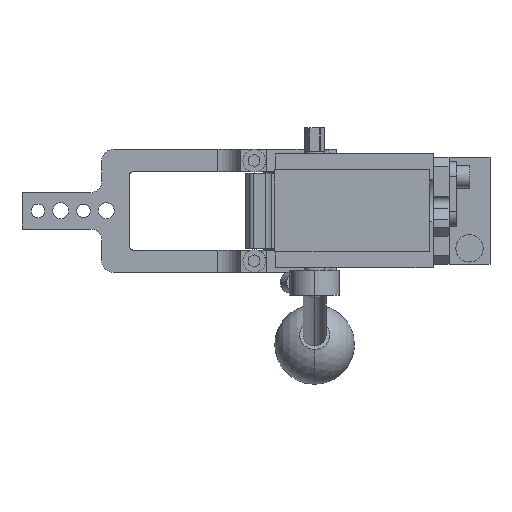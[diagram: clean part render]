
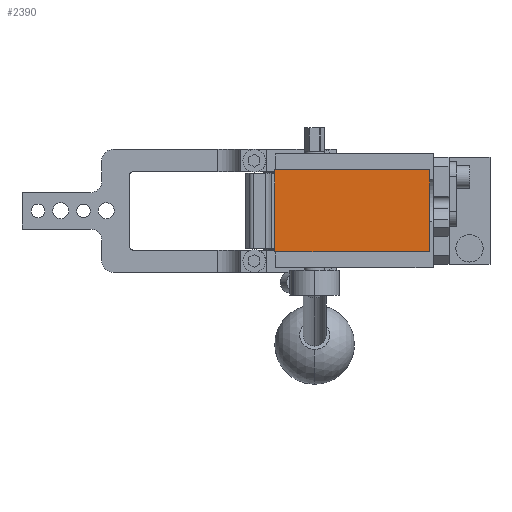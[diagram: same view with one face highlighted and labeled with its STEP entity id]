
A CAD part, front view. The second image highlights one B-rep face of the part: STEP entity #2390.
In plain terms, the highlighted planar face has unit normal (0, -1, 0).
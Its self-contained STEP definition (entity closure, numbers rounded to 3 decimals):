
#69 = DIRECTION ( 'NONE',  ( 0., 0., 1. ) ) ;
#428 = ORIENTED_EDGE ( 'NONE', *, *, #16366, .T. ) ;
#737 = VERTEX_POINT ( 'NONE', #11308 ) ;
#813 = VERTEX_POINT ( 'NONE', #14368 ) ;
#1260 = LINE ( 'NONE', #2594, #8915 ) ;
#1832 = CARTESIAN_POINT ( 'NONE',  ( 0., -233., 0. ) ) ;
#1870 = EDGE_CURVE ( 'NONE', #16484, #10119, #15549, .T. ) ;
#1914 = EDGE_CURVE ( 'NONE', #813, #16484, #8390, .T. ) ;
#2390 = ADVANCED_FACE ( 'NONE', ( #5503 ), #8371, .T. ) ;
#2594 = CARTESIAN_POINT ( 'NONE',  ( -6., -233., 18. ) ) ;
#3450 = ORIENTED_EDGE ( 'NONE', *, *, #1914, .T. ) ;
#5356 = CARTESIAN_POINT ( 'NONE',  ( 62., -233., -18. ) ) ;
#5503 = FACE_OUTER_BOUND ( 'NONE', #6583, .T. ) ;
#5770 = DIRECTION ( 'NONE',  ( 0., 0., -1. ) ) ;
#6291 = CARTESIAN_POINT ( 'NONE',  ( -6., -233., 18. ) ) ;
#6583 = EDGE_LOOP ( 'NONE', ( #10678, #3450, #16594, #428 ) ) ;
#6715 = AXIS2_PLACEMENT_3D ( 'NONE', #1832, #10742, #5770 ) ;
#6911 = CARTESIAN_POINT ( 'NONE',  ( -6., -233., -18. ) ) ;
#7768 = LINE ( 'NONE', #6291, #15954 ) ;
#8371 = PLANE ( 'NONE',  #6715 ) ;
#8390 = LINE ( 'NONE', #6911, #14964 ) ;
#8915 = VECTOR ( 'NONE', #10338, 1000. ) ;
#8923 = EDGE_CURVE ( 'NONE', #737, #813, #7768, .T. ) ;
#9422 = CARTESIAN_POINT ( 'NONE',  ( 62., -233., 18. ) ) ;
#10119 = VERTEX_POINT ( 'NONE', #16551 ) ;
#10338 = DIRECTION ( 'NONE',  ( -1., 0., 0. ) ) ;
#10608 = VECTOR ( 'NONE', #69, 1000. ) ;
#10678 = ORIENTED_EDGE ( 'NONE', *, *, #8923, .T. ) ;
#10742 = DIRECTION ( 'NONE',  ( 0., -1., 0. ) ) ;
#11308 = CARTESIAN_POINT ( 'NONE',  ( -6., -233., 18. ) ) ;
#14368 = CARTESIAN_POINT ( 'NONE',  ( -6., -233., -18. ) ) ;
#14954 = DIRECTION ( 'NONE',  ( 1., 0., 0. ) ) ;
#14964 = VECTOR ( 'NONE', #14954, 1000. ) ;
#15533 = DIRECTION ( 'NONE',  ( 0., 0., -1. ) ) ;
#15549 = LINE ( 'NONE', #9422, #10608 ) ;
#15954 = VECTOR ( 'NONE', #15533, 1000. ) ;
#16366 = EDGE_CURVE ( 'NONE', #10119, #737, #1260, .T. ) ;
#16484 = VERTEX_POINT ( 'NONE', #5356 ) ;
#16551 = CARTESIAN_POINT ( 'NONE',  ( 62., -233., 18. ) ) ;
#16594 = ORIENTED_EDGE ( 'NONE', *, *, #1870, .T. ) ;
